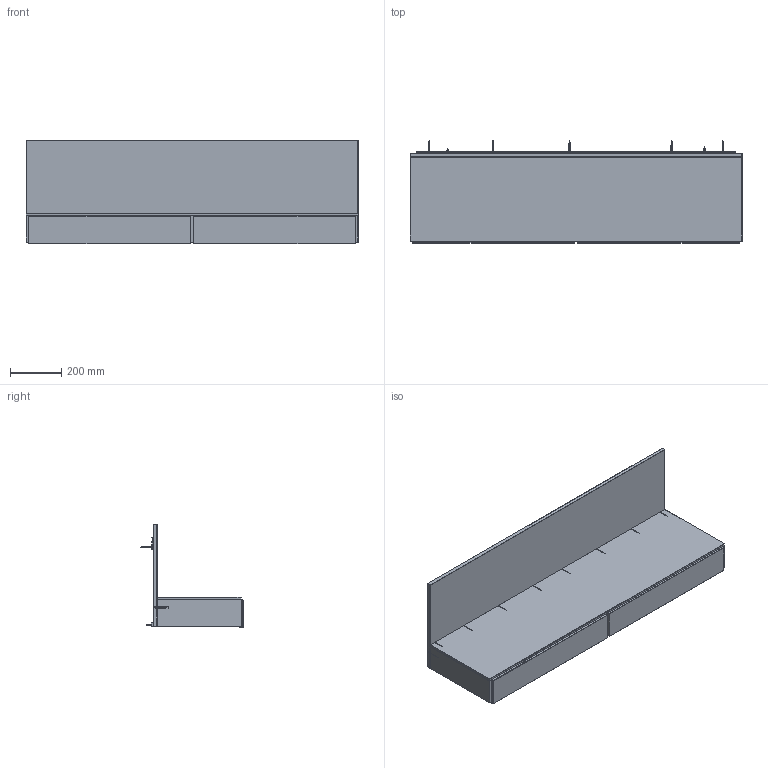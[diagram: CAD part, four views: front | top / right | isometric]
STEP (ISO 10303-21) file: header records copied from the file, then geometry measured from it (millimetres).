
FILE_DESCRIPTION(/* description */ (''),/* implementation_level */ '2;1');
FILE_NAME(/* name */ 'Tana Wall Mounted Media Module',/* time_stamp */ '2023-11-14T16:57:12+01:00',/* author */ (''),/* organization */ (''),/* preprocessor_version */ 'ST-DEVELOPER v16.5',/* originating_system */ 'Rhino 7.34',/* authorisation */ '');
FILE_SCHEMA (('CONFIG_CONTROL_DESIGN'));
Products named in the file (1): Document
Bounding box: 1300 x 400.99 x 406 mm (x, y, z)
Volume: 21377285.7 mm3; surface area: 4324259.2 mm2
Topology: 57 solids, 57 shells, 2432 faces, 6765 edges, 4498 vertices
Faces by surface type: cylinder 1050, plane 890, bspline 492
Full cylindrical faces by diameter (mm): 2.318 x16, 2.864 x50, 3.409 x2, 3.477 x16, 4 x6, 5 x43, 5.409 x16, 7.727 x35, 8 x24, 9 x2
Entity records: 161717 total; most frequent: CARTESIAN_POINT 118053, ORIENTED_EDGE 13482, EDGE_CURVE 6741, B_SPLINE_CURVE_WITH_KNOTS 5024, VERTEX_POINT 4495, EDGE_LOOP 2660, ADVANCED_FACE 2432, FACE_OUTER_BOUND 2432
